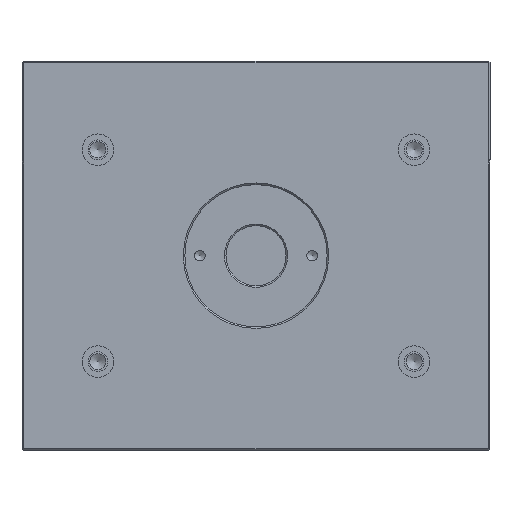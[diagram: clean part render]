
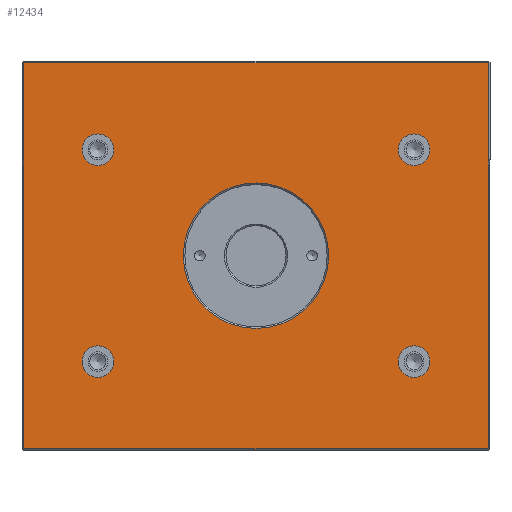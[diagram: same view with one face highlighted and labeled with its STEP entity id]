
A CAD part, top view. The second image highlights one B-rep face of the part: STEP entity #12434.
In plain terms, the highlighted planar face has unit normal (0, 0, 1).
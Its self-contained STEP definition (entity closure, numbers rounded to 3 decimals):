
#12434 = ADVANCED_FACE( '', ( #29086, #29087, #29088, #29089, #29090, #29091 ), #29092, .T. );
#29086 = FACE_BOUND( '', #52316, .T. );
#29087 = FACE_OUTER_BOUND( '', #52317, .T. );
#29088 = FACE_BOUND( '', #52318, .T. );
#29089 = FACE_BOUND( '', #52319, .T. );
#29090 = FACE_BOUND( '', #52320, .T. );
#29091 = FACE_BOUND( '', #52321, .T. );
#29092 = PLANE( '', #52322 );
#52316 = EDGE_LOOP( '', ( #83936 ) );
#52317 = EDGE_LOOP( '', ( #83937, #83938, #83939, #83940 ) );
#52318 = EDGE_LOOP( '', ( #83941 ) );
#52319 = EDGE_LOOP( '', ( #83942 ) );
#52320 = EDGE_LOOP( '', ( #83943 ) );
#52321 = EDGE_LOOP( '', ( #83944 ) );
#52322 = AXIS2_PLACEMENT_3D( '', #83945, #83946, #83947 );
#83936 = ORIENTED_EDGE( '', *, *, #112375, .T. );
#83937 = ORIENTED_EDGE( '', *, *, #112344, .T. );
#83938 = ORIENTED_EDGE( '', *, *, #113772, .T. );
#83939 = ORIENTED_EDGE( '', *, *, #113773, .T. );
#83940 = ORIENTED_EDGE( '', *, *, #113256, .T. );
#83941 = ORIENTED_EDGE( '', *, *, #113774, .T. );
#83942 = ORIENTED_EDGE( '', *, *, #111268, .T. );
#83943 = ORIENTED_EDGE( '', *, *, #108334, .T. );
#83944 = ORIENTED_EDGE( '', *, *, #112886, .T. );
#83945 = CARTESIAN_POINT( '', ( -148., -123., 0. ) );
#83946 = DIRECTION( '', ( 0., 0., 1. ) );
#83947 = DIRECTION( '', ( 1., 0., 0. ) );
#108334 = EDGE_CURVE( '', #119750, #119750, #119751, .T. );
#111268 = EDGE_CURVE( '', #124530, #124530, #124531, .T. );
#112344 = EDGE_CURVE( '', #126194, #119573, #126197, .T. );
#112375 = EDGE_CURVE( '', #126235, #126235, #126236, .F. );
#112886 = EDGE_CURVE( '', #126982, #126982, #126983, .T. );
#113256 = EDGE_CURVE( '', #127498, #126194, #127499, .T. );
#113772 = EDGE_CURVE( '', #119573, #128235, #128236, .T. );
#113773 = EDGE_CURVE( '', #128235, #127498, #128237, .T. );
#113774 = EDGE_CURVE( '', #128238, #128238, #128239, .T. );
#119573 = VERTEX_POINT( '', #135448 );
#119750 = VERTEX_POINT( '', #135699 );
#119751 = CIRCLE( '', #135700, 10. );
#124530 = VERTEX_POINT( '', #142773 );
#124531 = CIRCLE( '', #142774, 10. );
#126194 = VERTEX_POINT( '', #145302 );
#126197 = LINE( '', #145307, #145308 );
#126235 = VERTEX_POINT( '', #145364 );
#126236 = CIRCLE( '', #145365, 46. );
#126982 = VERTEX_POINT( '', #146448 );
#126983 = CIRCLE( '', #146449, 10. );
#127498 = VERTEX_POINT( '', #147207 );
#127499 = LINE( '', #147208, #147209 );
#128235 = VERTEX_POINT( '', #148286 );
#128236 = LINE( '', #148287, #148288 );
#128237 = LINE( '', #148289, #148290 );
#128238 = VERTEX_POINT( '', #148291 );
#128239 = CIRCLE( '', #148292, 10. );
#135448 = CARTESIAN_POINT( '', ( 147., 122., 0. ) );
#135699 = CARTESIAN_POINT( '', ( -100., -77., 0. ) );
#135700 = AXIS2_PLACEMENT_3D( '', #158154, #158155, #158156 );
#142773 = CARTESIAN_POINT( '', ( 100., -77., 0. ) );
#142774 = AXIS2_PLACEMENT_3D( '', #161273, #161274, #161275 );
#145302 = CARTESIAN_POINT( '', ( 147., -122., 0. ) );
#145307 = CARTESIAN_POINT( '', ( 147., -123., 0. ) );
#145308 = VECTOR( '', #162382, 1000. );
#145364 = CARTESIAN_POINT( '', ( 46., 0., 0. ) );
#145365 = AXIS2_PLACEMENT_3D( '', #162403, #162404, #162405 );
#146448 = CARTESIAN_POINT( '', ( -100., 57., 0. ) );
#146449 = AXIS2_PLACEMENT_3D( '', #162986, #162987, #162988 );
#147207 = CARTESIAN_POINT( '', ( -147., -122., 0. ) );
#147208 = CARTESIAN_POINT( '', ( -148., -122., 0. ) );
#147209 = VECTOR( '', #163351, 1000. );
#148286 = CARTESIAN_POINT( '', ( -147., 122., 0. ) );
#148287 = CARTESIAN_POINT( '', ( -148., 122., 0. ) );
#148288 = VECTOR( '', #163928, 1000. );
#148289 = CARTESIAN_POINT( '', ( -147., -123., 0. ) );
#148290 = VECTOR( '', #163929, 1000. );
#148291 = CARTESIAN_POINT( '', ( 100., 57., 0. ) );
#148292 = AXIS2_PLACEMENT_3D( '', #163930, #163931, #163932 );
#158154 = CARTESIAN_POINT( '', ( -100., -67., 0. ) );
#158155 = DIRECTION( '', ( 0., 0., -1. ) );
#158156 = DIRECTION( '', ( 0., -1., 0. ) );
#161273 = CARTESIAN_POINT( '', ( 100., -67., 0. ) );
#161274 = DIRECTION( '', ( 0., 0., -1. ) );
#161275 = DIRECTION( '', ( 0., -1., 0. ) );
#162382 = DIRECTION( '', ( 0., 1., 0. ) );
#162403 = CARTESIAN_POINT( '', ( 0., 0., 0. ) );
#162404 = DIRECTION( '', ( 0., 0., 1. ) );
#162405 = DIRECTION( '', ( 1., 0., 0. ) );
#162986 = CARTESIAN_POINT( '', ( -100., 67., 0. ) );
#162987 = DIRECTION( '', ( 0., 0., -1. ) );
#162988 = DIRECTION( '', ( 0., -1., 0. ) );
#163351 = DIRECTION( '', ( 1., 0., 0. ) );
#163928 = DIRECTION( '', ( -1., 0., 0. ) );
#163929 = DIRECTION( '', ( 0., -1., 0. ) );
#163930 = CARTESIAN_POINT( '', ( 100., 67., 0. ) );
#163931 = DIRECTION( '', ( 0., 0., -1. ) );
#163932 = DIRECTION( '', ( 0., -1., 0. ) );
